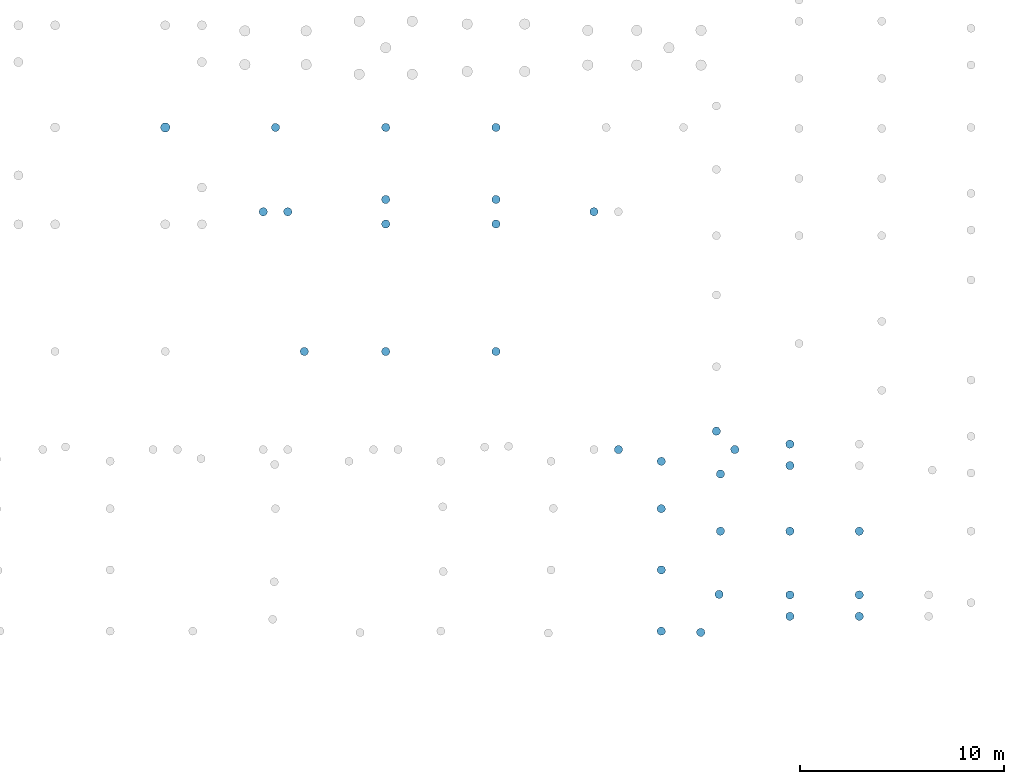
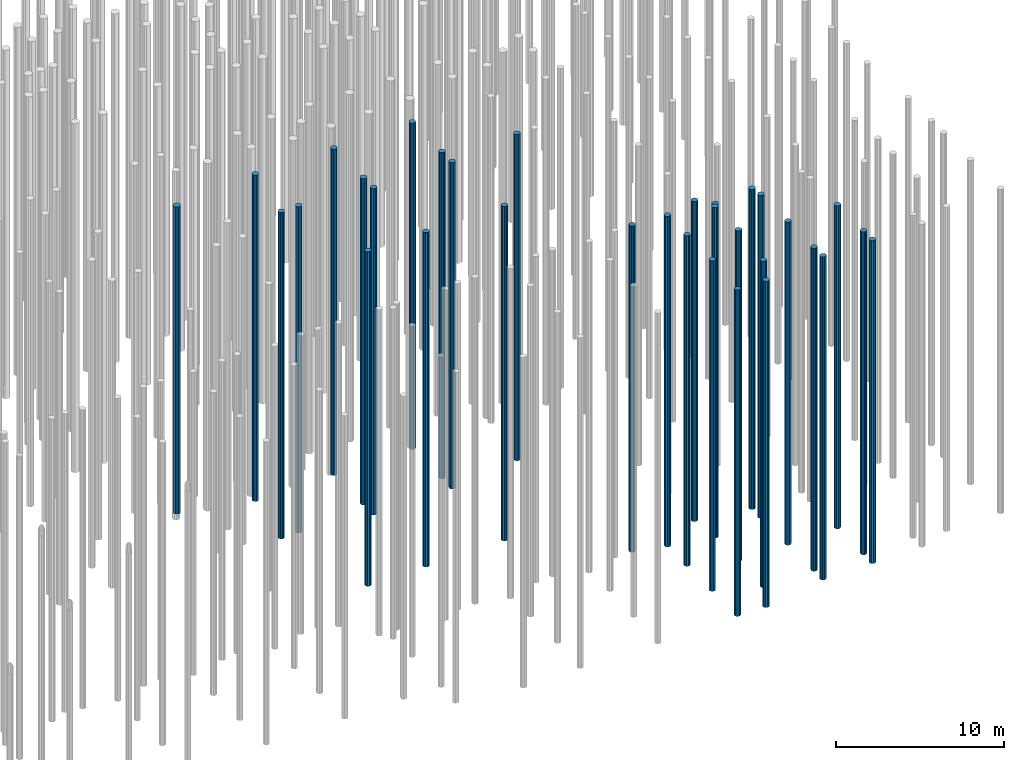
# One storey, part 12 of 20: 33 piles.
"""IFC2X3 building model written with IfcOpenShell, lengths in millimetres."""

from ifc_helpers import new_model, entity, si_unit, converted_unit, derived_unit, direction, frame, origin, place, context, subcontext, project, spatial, polyline, outline, extrude, material, element, save


model = new_model("IFC2X3")

# Units and contexts
model_context = context("Model", 3, precision=0.01, world=origin(), true_north=direction((6.12303176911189e-17, 1.0)))
body_context = subcontext(model_context, "Body", "Model", "MODEL_VIEW")
ifc_project = project(units=[si_unit("LENGTHUNIT", "METRE", prefix="MILLI"), si_unit("AREAUNIT", "SQUARE_METRE"), si_unit("VOLUMEUNIT", "CUBIC_METRE"), converted_unit("PLANEANGLEUNIT", "DEGREE", entity("IfcRatioMeasure", 0.0174532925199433), si_unit("PLANEANGLEUNIT", "RADIAN"), dimensions=[0, 0, 0, 0, 0, 0, 0]), si_unit("MASSUNIT", "GRAM", prefix="KILO"), derived_unit("MASSDENSITYUNIT", [(si_unit("MASSUNIT", "GRAM", prefix="KILO"), 1), (si_unit("LENGTHUNIT", "METRE"), -3)]), si_unit("TIMEUNIT", "SECOND"), si_unit("FREQUENCYUNIT", "HERTZ"), si_unit("THERMODYNAMICTEMPERATUREUNIT", "DEGREE_CELSIUS"), derived_unit("THERMALTRANSMITTANCEUNIT", [(si_unit("MASSUNIT", "GRAM", prefix="KILO"), 1), (si_unit("THERMODYNAMICTEMPERATUREUNIT", "KELVIN"), -1), (si_unit("TIMEUNIT", "SECOND"), -3)]), derived_unit("VOLUMETRICFLOWRATEUNIT", [(si_unit("LENGTHUNIT", "METRE"), 3), (si_unit("TIMEUNIT", "SECOND"), -1)]), si_unit("ELECTRICCURRENTUNIT", "AMPERE"), si_unit("ELECTRICVOLTAGEUNIT", "VOLT"), si_unit("POWERUNIT", "WATT"), si_unit("FORCEUNIT", "NEWTON", prefix="KILO"), si_unit("ILLUMINANCEUNIT", "LUX"), si_unit("LUMINOUSFLUXUNIT", "LUMEN"), si_unit("LUMINOUSINTENSITYUNIT", "CANDELA"), derived_unit("USERDEFINED", [(si_unit("MASSUNIT", "GRAM", prefix="KILO"), -1), (si_unit("LENGTHUNIT", "METRE"), -2), (si_unit("TIMEUNIT", "SECOND"), 3), (si_unit("LUMINOUSFLUXUNIT", "LUMEN"), 1)]), derived_unit("LINEARVELOCITYUNIT", [(si_unit("LENGTHUNIT", "METRE"), 1), (si_unit("TIMEUNIT", "SECOND"), -1)]), si_unit("PRESSUREUNIT", "PASCAL"), derived_unit("USERDEFINED", [(si_unit("LENGTHUNIT", "METRE"), -2), (si_unit("MASSUNIT", "GRAM", prefix="KILO"), 1), (si_unit("TIMEUNIT", "SECOND"), -2)])], contexts=[model_context])

# Site, building, storey
site_placement = place(None, origin())
site = spatial("IfcSite", under=ifc_project, at=site_placement, Name="Default", CompositionType="ELEMENT")
building_placement = place(site_placement, origin())
building = spatial("IfcBuilding", under=site, at=building_placement, Name="niet gebruiken", CompositionType="ELEMENT")
storey_placement = place(building_placement, frame((0.0, 0.0, -4000.0)))
storey = spatial("IfcBuildingStorey", under=building, at=storey_placement, Name="Level t.b.v. palenplan", CompositionType="ELEMENT", Elevation=-4000.0)

# Piles
ifc_material = material(Name="NLRS_f2_beton ihwg")
pile_1_placement = place(storey_placement, origin())
element("IfcPile", 1, at=pile_1_placement, inside=storey, material=ifc_material, Name="NLRS_17.12_SFO_TLB_funderingspaal grondverdringend_gen:Fundex_r410/500", ObjectType="NLRS_17.12_SFO_TLB_funderingspaal grondverdringend_gen:Fundex_r410/500", context=body_context, shape_type="SweptSolid", body=[
    extrude(outline(polyline([(-49.0597111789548, -199.043072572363), (49.0597111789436, -199.043072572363), (135.94014493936, -153.444703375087), (191.678329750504, -72.6940018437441), (203.505319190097, 24.710019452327), (168.711692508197, 116.453273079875), (95.2682502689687, 181.518485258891), (49.0597111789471, 199.043072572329), (-49.0597111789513, 199.043072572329), (-135.940144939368, 153.444703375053), (-191.678329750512, 72.6940018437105), (-203.505319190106, -24.7100194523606), (-168.711692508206, -116.453273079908), (-95.2682502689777, -181.518485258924), (-49.0597111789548, -199.043072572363)])), frame((99900.0, 300.0, -21100.0), z_axis=(0.0, 0.0, 1.0), x_axis=(0.239315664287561, -0.970941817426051, 0.0)), (0.0, 0.0, 1.0), 23720.0),
])
pile_2_placement = place(storey_placement, origin())
element("IfcPile", 2, at=pile_2_placement, inside=storey, material=ifc_material, Name="NLRS_17.12_SFO_TLB_funderingspaal grondverdringend_gen:Fundex_r410/500", ObjectType="NLRS_17.12_SFO_TLB_funderingspaal grondverdringend_gen:Fundex_r410/500", context=body_context, shape_type="SweptSolid", body=[
    extrude(outline(polyline([(-49.0597111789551, -199.043072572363), (49.0597111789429, -199.043072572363), (135.940144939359, -153.444703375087), (191.678329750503, -72.6940018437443), (203.505319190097, 24.7100194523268), (168.711692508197, 116.453273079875), (95.2682502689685, 181.51848525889), (49.0597111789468, 199.043072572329), (-49.0597111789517, 199.043072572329), (-135.940144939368, 153.444703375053), (-191.678329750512, 72.6940018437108), (-203.505319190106, -24.7100194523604), (-168.711692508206, -116.453273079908), (-95.2682502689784, -181.518485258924), (-49.0597111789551, -199.043072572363)])), frame((99900.0, 3300.0, -21100.0), z_axis=(0.0, 0.0, 1.0), x_axis=(0.239315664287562, -0.970941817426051, 0.0)), (0.0, 0.0, 1.0), 24028.0),
])
pile_3_placement = place(storey_placement, origin())
element("IfcPile", 3, at=pile_3_placement, inside=storey, material=ifc_material, Name="NLRS_17.12_SFO_TLB_funderingspaal grondverdringend_gen:Fundex_r410/500", ObjectType="NLRS_17.12_SFO_TLB_funderingspaal grondverdringend_gen:Fundex_r410/500", context=body_context, shape_type="SweptSolid", body=[
    extrude(outline(polyline([(-49.0597111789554, -199.043072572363), (49.0597111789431, -199.043072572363), (135.940144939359, -153.444703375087), (191.678329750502, -72.6940018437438), (203.505319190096, 24.7100194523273), (168.711692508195, 116.453273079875), (95.2682502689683, 181.518485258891), (49.0597111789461, 199.043072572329), (-49.0597111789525, 199.043072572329), (-135.940144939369, 153.444703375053), (-191.678329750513, 72.6940018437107), (-203.505319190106, -24.7100194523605), (-168.711692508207, -116.453273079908), (-95.2682502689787, -181.518485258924), (-49.0597111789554, -199.043072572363)])), frame((99900.0, 6300.0, -21100.0), z_axis=(0.0, 0.0, 1.0), x_axis=(0.239315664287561, -0.970941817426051, 0.0)), (0.0, 0.0, 1.0), 24028.0),
])
pile_4_placement = place(storey_placement, origin())
element("IfcPile", 4, at=pile_4_placement, inside=storey, material=ifc_material, Name="NLRS_17.12_SFO_TLB_funderingspaal grondverdringend_gen:Fundex_r410/500", ObjectType="NLRS_17.12_SFO_TLB_funderingspaal grondverdringend_gen:Fundex_r410/500", context=body_context, shape_type="SweptSolid", body=[
    extrude(outline(polyline([(-49.0597111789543, -199.043072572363), (49.0597111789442, -199.043072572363), (135.94014493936, -153.444703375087), (191.678329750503, -72.6940018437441), (203.505319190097, 24.7100194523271), (168.711692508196, 116.453273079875), (95.2682502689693, 181.51848525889), (49.0597111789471, 199.043072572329), (-49.0597111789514, 199.043072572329), (-135.940144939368, 153.444703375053), (-191.678329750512, 72.6940018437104), (-203.505319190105, -24.7100194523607), (-168.711692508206, -116.453273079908), (-95.2682502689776, -181.518485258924), (-49.0597111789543, -199.043072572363)])), frame((99900.0, 8621.0, -21100.0), z_axis=(0.0, 0.0, 1.0), x_axis=(0.239315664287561, -0.970941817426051, 0.0)), (0.0, 0.0, 1.0), 24028.0),
])
pile_5_placement = place(storey_placement, origin())
element("IfcPile", 5, at=pile_5_placement, inside=storey, material=ifc_material, Name="NLRS_17.12_SFO_TLB_funderingspaal grondverdringend_gen:Fundex_r410/500", ObjectType="NLRS_17.12_SFO_TLB_funderingspaal grondverdringend_gen:Fundex_r410/500", context=body_context, shape_type="SweptSolid", body=[
    extrude(outline(polyline([(-49.0597111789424, -199.04307257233), (49.0597111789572, -199.04307257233), (135.940144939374, -153.444703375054), (191.678329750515, -72.6940018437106), (203.505319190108, 24.7100194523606), (168.71169250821, 116.453273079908), (95.2682502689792, 181.518485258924), (49.0597111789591, 199.043072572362), (-49.0597111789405, 199.043072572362), (-135.940144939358, 153.444703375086), (-191.678329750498, 72.6940018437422), (-203.505319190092, -24.710019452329), (-168.711692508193, -116.453273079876), (-95.2682502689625, -181.518485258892), (-49.0597111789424, -199.04307257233)])), frame((81000.0, 24976.0, -21100.0), z_axis=(0.0, 0.0, 1.0), x_axis=(0.239315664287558, -0.970941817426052, 0.0)), (0.0, 0.0, 1.0), 23720.0),
])
pile_6_placement = place(storey_placement, origin())
element("IfcPile", 6, at=pile_6_placement, inside=storey, material=ifc_material, Name="NLRS_17.12_SFO_TLB_funderingspaal grondverdringend_gen:Fundex_r410/500", ObjectType="NLRS_17.12_SFO_TLB_funderingspaal grondverdringend_gen:Fundex_r410/500", context=body_context, shape_type="SweptSolid", body=[
    extrude(outline(polyline([(-49.0597111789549, -199.043072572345), (49.0597111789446, -199.043072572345), (135.940144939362, -153.444703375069), (191.678329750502, -72.6940018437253), (203.505319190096, 24.7100194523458), (168.711692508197, 116.453273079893), (95.2682502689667, 181.518485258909), (49.0597111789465, 199.043072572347), (-49.059711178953, 199.043072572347), (-135.94014493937, 153.444703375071), (-191.678329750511, 72.6940018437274), (-203.505319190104, -24.7100194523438), (-168.711692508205, -116.453273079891), (-95.2682502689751, -181.518485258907), (-49.0597111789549, -199.043072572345)])), frame((86400.0, 20246.0, -21100.0), z_axis=(0.0, 0.0, 1.0), x_axis=(0.239315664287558, -0.970941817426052, 0.0)), (0.0, 0.0, 1.0), 23720.0),
])
pile_7_placement = place(storey_placement, origin())
element("IfcPile", 7, at=pile_7_placement, inside=storey, material=ifc_material, Name="NLRS_17.12_SFO_TLB_funderingspaal grondverdringend_gen:Fundex_r410/500", ObjectType="NLRS_17.12_SFO_TLB_funderingspaal grondverdringend_gen:Fundex_r410/500", context=body_context, shape_type="SweptSolid", body=[
    extrude(outline(polyline([(-49.0597111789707, -199.043072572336), (49.0597111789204, -199.043072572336), (135.940144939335, -153.444703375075), (191.678329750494, -72.6940018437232), (203.505319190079, 24.7100194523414), (168.711692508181, 116.453273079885), (95.2682502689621, 181.518485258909), (49.059711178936, 199.043072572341), (-49.0597111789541, 199.043072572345), (-135.940144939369, 153.444703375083), (-191.678329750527, 72.6940018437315), (-203.505319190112, -24.7100194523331), (-168.711692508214, -116.453273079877), (-95.2682502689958, -181.518485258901), (-49.0597111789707, -199.043072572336)])), frame((86400.0, 21446.0, -21100.0), z_axis=(0.0, 0.0, 1.0), x_axis=(-0.970941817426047, -0.239315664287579, 0.0)), (0.0, 0.0, 1.0), 23720.0),
])
pile_8_placement = place(storey_placement, origin())
element("IfcPile", 8, at=pile_8_placement, inside=storey, material=ifc_material, Name="NLRS_17.12_SFO_TLB_funderingspaal grondverdringend_gen:Fundex_r410/500", ObjectType="NLRS_17.12_SFO_TLB_funderingspaal grondverdringend_gen:Fundex_r410/500", context=body_context, shape_type="SweptSolid", body=[
    extrude(outline(polyline([(-49.0597111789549, -199.043072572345), (49.0597111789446, -199.043072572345), (135.940144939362, -153.444703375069), (191.678329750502, -72.6940018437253), (203.505319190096, 24.7100194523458), (168.711692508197, 116.453273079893), (95.2682502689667, 181.518485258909), (49.0597111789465, 199.043072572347), (-49.059711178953, 199.043072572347), (-135.94014493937, 153.444703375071), (-191.678329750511, 72.6940018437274), (-203.505319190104, -24.7100194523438), (-168.711692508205, -116.453273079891), (-95.2682502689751, -181.518485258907), (-49.0597111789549, -199.043072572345)])), frame((86400.0, 24976.0, -21100.0), z_axis=(0.0, 0.0, 1.0), x_axis=(0.239315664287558, -0.970941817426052, 0.0)), (0.0, 0.0, 1.0), 23720.0),
])
pile_9_placement = place(storey_placement, origin())
element("IfcPile", 9, at=pile_9_placement, inside=storey, material=ifc_material, Name="NLRS_17.12_SFO_TLB_funderingspaal grondverdringend_gen:Fundex_r410/500", ObjectType="NLRS_17.12_SFO_TLB_funderingspaal grondverdringend_gen:Fundex_r410/500", context=body_context, shape_type="SweptSolid", body=[
    extrude(outline(polyline([(-49.0597111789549, -199.043072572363), (49.0597111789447, -199.043072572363), (135.940144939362, -153.444703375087), (191.678329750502, -72.6940018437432), (203.505319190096, 24.710019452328), (168.711692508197, 116.453273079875), (95.2682502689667, 181.518485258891), (49.0597111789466, 199.043072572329), (-49.059711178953, 199.043072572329), (-135.94014493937, 153.444703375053), (-191.678329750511, 72.6940018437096), (-203.505319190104, -24.7100194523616), (-168.711692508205, -116.453273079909), (-95.268250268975, -181.518485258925), (-49.0597111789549, -199.043072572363)])), frame((91800.0, 20246.0, -21100.0), z_axis=(0.0, 0.0, 1.0), x_axis=(0.239315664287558, -0.970941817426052, 0.0)), (0.0, 0.0, 1.0), 23720.0),
])
pile_10_placement = place(storey_placement, origin())
element("IfcPile", 10, at=pile_10_placement, inside=storey, material=ifc_material, Name="NLRS_17.12_SFO_TLB_funderingspaal grondverdringend_gen:Fundex_r410/500", ObjectType="NLRS_17.12_SFO_TLB_funderingspaal grondverdringend_gen:Fundex_r410/500", context=body_context, shape_type="SweptSolid", body=[
    extrude(outline(polyline([(-49.0597111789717, -199.043072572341), (49.0597111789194, -199.043072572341), (135.940144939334, -153.444703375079), (191.678329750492, -72.6940018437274), (203.505319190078, 24.7100194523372), (168.71169250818, 116.453273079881), (95.2682502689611, 181.518485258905), (49.059711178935, 199.043072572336), (-49.0597111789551, 199.043072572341), (-135.94014493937, 153.444703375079), (-191.678329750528, 72.6940018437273), (-203.505319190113, -24.7100194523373), (-168.711692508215, -116.453273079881), (-95.2682502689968, -181.518485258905), (-49.0597111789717, -199.043072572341)])), frame((91800.0, 21446.0, -21100.0), z_axis=(0.0, 0.0, 1.0), x_axis=(-0.970941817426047, -0.239315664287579, 0.0)), (0.0, 0.0, 1.0), 23720.0),
])
pile_11_placement = place(storey_placement, origin())
element("IfcPile", 11, at=pile_11_placement, inside=storey, material=ifc_material, Name="NLRS_17.12_SFO_TLB_funderingspaal grondverdringend_gen:Fundex_r410/500", ObjectType="NLRS_17.12_SFO_TLB_funderingspaal grondverdringend_gen:Fundex_r410/500", context=body_context, shape_type="SweptSolid", body=[
    extrude(outline(polyline([(-49.0597111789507, -199.043072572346), (49.0597111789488, -199.043072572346), (135.940144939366, -153.44470337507), (191.678329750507, -72.6940018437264), (203.5053191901, 24.7100194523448), (168.711692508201, 116.453273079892), (95.2682502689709, 181.518485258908), (49.0597111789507, 199.043072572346), (-49.0597111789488, 199.043072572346), (-135.940144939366, 153.44470337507), (-191.678329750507, 72.6940018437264), (-203.5053191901, -24.7100194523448), (-168.711692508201, -116.453273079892), (-95.2682502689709, -181.518485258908), (-49.0597111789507, -199.043072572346)])), frame((91800.0, 24976.0, -21100.0), z_axis=(0.0, 0.0, 1.0), x_axis=(0.239315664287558, -0.970941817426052, 0.0)), (0.0, 0.0, 1.0), 23720.0),
])
pile_12_placement = place(storey_placement, origin())
element("IfcPile", 12, at=pile_12_placement, inside=storey, material=ifc_material, Name="NLRS_17.12_SFO_TLB_funderingspaal grondverdringend_gen:Fundex_r410/500", ObjectType="NLRS_17.12_SFO_TLB_funderingspaal grondverdringend_gen:Fundex_r410/500", context=body_context, shape_type="SweptSolid", body=[
    extrude(outline(polyline([(-49.0597111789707, -199.043072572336), (49.0597111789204, -199.043072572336), (135.940144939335, -153.444703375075), (191.678329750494, -72.6940018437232), (203.505319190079, 24.7100194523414), (168.711692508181, 116.453273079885), (95.2682502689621, 181.518485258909), (49.059711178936, 199.043072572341), (-49.0597111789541, 199.043072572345), (-135.940144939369, 153.444703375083), (-191.678329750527, 72.6940018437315), (-203.505319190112, -24.7100194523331), (-168.711692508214, -116.453273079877), (-95.2682502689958, -181.518485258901), (-49.0597111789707, -199.043072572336)])), frame((80400.0, 20846.0, -21100.0), z_axis=(0.0, 0.0, 1.0), x_axis=(-0.970941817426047, -0.239315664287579, 0.0)), (0.0, 0.0, 1.0), 23720.0),
])
pile_13_placement = place(storey_placement, origin())
element("IfcPile", 13, at=pile_13_placement, inside=storey, material=ifc_material, Name="NLRS_17.12_SFO_TLB_funderingspaal grondverdringend_gen:Fundex_r410/500", ObjectType="NLRS_17.12_SFO_TLB_funderingspaal grondverdringend_gen:Fundex_r410/500", context=body_context, shape_type="SweptSolid", body=[
    extrude(outline(polyline([(-49.0597111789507, -199.043072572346), (49.0597111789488, -199.043072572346), (135.940144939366, -153.44470337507), (191.678329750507, -72.6940018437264), (203.5053191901, 24.7100194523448), (168.711692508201, 116.453273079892), (95.2682502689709, 181.518485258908), (49.0597111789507, 199.043072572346), (-49.0597111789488, 199.043072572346), (-135.940144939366, 153.44470337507), (-191.678329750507, 72.6940018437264), (-203.5053191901, -24.7100194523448), (-168.711692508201, -116.453273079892), (-95.2682502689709, -181.518485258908), (-49.0597111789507, -199.043072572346)])), frame((81600.0, 20846.0, -21100.0), z_axis=(0.0, 0.0, 1.0), x_axis=(0.239315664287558, -0.970941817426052, 0.0)), (0.0, 0.0, 1.0), 23720.0),
])
pile_14_placement = place(storey_placement, origin())
element("IfcPile", 14, at=pile_14_placement, inside=storey, material=ifc_material, Name="NLRS_17.12_SFO_TLB_funderingspaal grondverdringend_gen:Fundex_r410/500", ObjectType="NLRS_17.12_SFO_TLB_funderingspaal grondverdringend_gen:Fundex_r410/500", context=body_context, shape_type="SweptSolid", body=[
    extrude(outline(polyline([(-49.0597111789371, -199.043072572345), (49.0597111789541, -199.043072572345), (135.940144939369, -153.444703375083), (191.678329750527, -72.6940018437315), (203.505319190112, 24.7100194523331), (168.711692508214, 116.453273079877), (95.2682502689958, 181.518485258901), (49.0597111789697, 199.043072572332), (-49.0597111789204, 199.043072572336), (-135.940144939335, 153.444703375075), (-191.678329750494, 72.6940018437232), (-203.505319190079, -24.7100194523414), (-168.711692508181, -116.453273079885), (-95.2682502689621, -181.518485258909), (-49.0597111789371, -199.043072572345)])), frame((96600.0, 20846.0, -21100.0), z_axis=(0.0, 0.0, 1.0), x_axis=(-0.970941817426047, -0.239315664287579, 0.0)), (0.0, 0.0, 1.0), 23720.0),
])
pile_15_placement = place(storey_placement, origin())
element("IfcPile", 15, at=pile_15_placement, inside=storey, material=ifc_material, Name="NLRS_17.12_SFO_TLB_funderingspaal grondverdringend_gen:Fundex_r410/500", ObjectType="NLRS_17.12_SFO_TLB_funderingspaal grondverdringend_gen:Fundex_r410/500", context=body_context, shape_type="SweptSolid", body=[
    extrude(outline(polyline([(-49.0597111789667, -199.043072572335), (49.0597111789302, -199.043072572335), (135.940144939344, -153.444703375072), (191.678329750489, -72.6940018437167), (203.505319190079, 24.710019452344), (168.711692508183, 116.453273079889), (95.2682502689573, 181.518485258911), (49.0597111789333, 199.043072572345), (-49.0597111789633, 199.043072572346), (-135.940144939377, 153.444703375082), (-191.678329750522, 72.6940018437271), (-203.505319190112, -24.7100194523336), (-168.711692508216, -116.453273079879), (-95.2682502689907, -181.518485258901), (-49.0597111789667, -199.043072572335)])), frame((97800.0, 9196.0, -21100.0), z_axis=(0.0, 0.0, 1.0), x_axis=(-0.970941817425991, -0.239315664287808, 0.0)), (0.0, 0.0, 1.0), 23720.0),
])
pile_16_placement = place(storey_placement, origin())
element("IfcPile", 16, at=pile_16_placement, inside=storey, material=ifc_material, Name="NLRS_17.12_SFO_TLB_funderingspaal grondverdringend_gen:Fundex_r410/500", ObjectType="NLRS_17.12_SFO_TLB_funderingspaal grondverdringend_gen:Fundex_r410/500", context=body_context, shape_type="SweptSolid", body=[
    extrude(outline(polyline([(-49.059711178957, -199.043072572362), (49.0597111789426, -199.043072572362), (135.940144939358, -153.444703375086), (191.678329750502, -72.6940018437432), (203.505319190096, 24.710019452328), (168.711692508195, 116.453273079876), (95.2682502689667, 181.518485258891), (49.0597111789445, 199.04307257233), (-49.059711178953, 199.043072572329), (-135.94014493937, 153.444703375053), (-191.678329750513, 72.6940018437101), (-203.505319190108, -24.7100194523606), (-168.711692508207, -116.453273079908), (-95.2682502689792, -181.518485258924), (-49.059711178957, -199.043072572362)])), frame((91800.0, 14001.0, -21100.0), z_axis=(0.0, 0.0, 1.0), x_axis=(0.239315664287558, -0.970941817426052, 0.0)), (0.0, 0.0, 1.0), 24320.0),
])
pile_17_placement = place(storey_placement, origin())
element("IfcPile", 17, at=pile_17_placement, inside=storey, material=ifc_material, Name="NLRS_17.12_SFO_TLB_funderingspaal grondverdringend_gen:Fundex_r410/500", ObjectType="NLRS_17.12_SFO_TLB_funderingspaal grondverdringend_gen:Fundex_r410/500", context=body_context, shape_type="SweptSolid", body=[
    extrude(outline(polyline([(-49.0597111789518, -199.043072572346), (49.0597111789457, -199.043072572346), (135.940144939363, -153.44470337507), (191.678329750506, -72.6940018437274), (203.5053191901, 24.7100194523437), (168.711692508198, 116.453273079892), (95.2682502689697, 181.518485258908), (49.0597111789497, 199.043072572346), (-49.0597111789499, 199.043072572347), (-135.940144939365, 153.444703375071), (-191.67832975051, 72.6940018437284), (-203.505319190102, -24.7100194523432), (-168.711692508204, -116.453273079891), (-95.2682502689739, -181.518485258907), (-49.0597111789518, -199.043072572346)])), frame((82410.0, 14001.0, -21100.0), z_axis=(0.0, 0.0, 1.0), x_axis=(0.239315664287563, -0.970941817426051, 0.0)), (0.0, 0.0, 1.0), 24320.0),
])
pile_18_placement = place(storey_placement, origin())
element("IfcPile", 18, at=pile_18_placement, inside=storey, material=ifc_material, Name="NLRS_17.12_SFO_TLB_funderingspaal grondverdringend_gen:Fundex_r410/500", ObjectType="NLRS_17.12_SFO_TLB_funderingspaal grondverdringend_gen:Fundex_r410/500", context=body_context, shape_type="SweptSolid", body=[
    extrude(outline(polyline([(-49.0597111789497, -199.043072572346), (49.0597111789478, -199.043072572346), (135.940144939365, -153.444703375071), (191.678329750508, -72.6940018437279), (203.505319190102, 24.7100194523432), (168.7116925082, 116.453273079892), (95.2682502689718, 181.518485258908), (49.0597111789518, 199.043072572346), (-49.0597111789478, 199.043072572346), (-135.940144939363, 153.44470337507), (-191.678329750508, 72.6940018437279), (-203.5053191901, -24.7100194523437), (-168.711692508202, -116.453273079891), (-95.2682502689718, -181.518485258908), (-49.0597111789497, -199.043072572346)])), frame((86400.0, 14001.0, -21100.0), z_axis=(0.0, 0.0, 1.0), x_axis=(0.239315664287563, -0.970941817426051, 0.0)), (0.0, 0.0, 1.0), 24320.0),
])
pile_19_placement = place(storey_placement, origin())
element("IfcPile", 19, at=pile_19_placement, inside=storey, material=ifc_material, Name="NLRS_17.12_SFO_TLB_funderingspaal grondverdringend_gen:Fundex_r410/500", ObjectType="NLRS_17.12_SFO_TLB_funderingspaal grondverdringend_gen:Fundex_r410/500", context=body_context, shape_type="SweptSolid", body=[
    extrude(outline(polyline([(-49.0597111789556, -199.043072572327), (49.0597111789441, -199.043072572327), (135.94014493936, -153.444703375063), (191.678329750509, -72.6940018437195), (203.505319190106, 24.7100194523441), (168.711692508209, 116.453273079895), (95.2682502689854, 181.518485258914), (49.059711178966, 199.04307257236), (-49.0597111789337, 199.04307257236), (-135.940144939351, 153.444703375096), (-191.678329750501, 72.6940018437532), (-203.505319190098, -24.7100194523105), (-168.711692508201, -116.453273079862), (-95.2682502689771, -181.518485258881), (-49.0597111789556, -199.043072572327)])), frame((102600.0, 10096.0, -21100.0), z_axis=(0.0, 0.0, 1.0), x_axis=(0.239315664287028, -0.970941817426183, 0.0)), (0.0, 0.0, 1.0), 23270.0),
])
pile_20_placement = place(storey_placement, origin())
element("IfcPile", 20, at=pile_20_placement, inside=storey, material=ifc_material, Name="NLRS_17.12_SFO_TLB_funderingspaal grondverdringend_gen:Fundex_r410/500", ObjectType="NLRS_17.12_SFO_TLB_funderingspaal grondverdringend_gen:Fundex_r410/500", context=body_context, shape_type="SweptSolid", body=[
    extrude(outline(polyline([(-49.0597111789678, -199.043072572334), (49.0597111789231, -199.043072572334), (135.940144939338, -153.444703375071), (191.678329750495, -72.6940018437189), (203.505319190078, 24.7100194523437), (168.71169250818, 116.453273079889), (95.2682502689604, 181.518485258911), (49.0597111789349, 199.043072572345), (-49.0597111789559, 199.043072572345), (-135.940144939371, 153.444703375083), (-191.678329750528, 72.6940018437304), (-203.505319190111, -24.7100194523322), (-168.711692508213, -116.453273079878), (-95.268250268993, -181.518485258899), (-49.0597111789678, -199.043072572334)])), frame((103500.0, 9196.0, -21100.0), z_axis=(0.0, 0.0, 1.0), x_axis=(-0.970941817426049, -0.239315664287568, 0.0)), (0.0, 0.0, 1.0), 23270.0),
])
pile_21_placement = place(storey_placement, origin())
element("IfcPile", 21, at=pile_21_placement, inside=storey, material=ifc_material, Name="NLRS_17.12_SFO_TLB_funderingspaal grondverdringend_gen:Fundex_r410/500", ObjectType="NLRS_17.12_SFO_TLB_funderingspaal grondverdringend_gen:Fundex_r410/500", context=body_context, shape_type="SweptSolid", body=[
    extrude(outline(polyline([(-49.0597111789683, -199.043072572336), (49.0597111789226, -199.043072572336), (135.940144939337, -153.444703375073), (191.678329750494, -72.694001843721), (203.505319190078, 24.7100194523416), (168.711692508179, 116.453273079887), (95.2682502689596, 181.518485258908), (49.0597111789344, 199.043072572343), (-49.0597111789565, 199.043072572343), (-135.940144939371, 153.444703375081), (-191.678329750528, 72.6940018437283), (-203.505319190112, -24.7100194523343), (-168.711692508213, -116.45327307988), (-95.2682502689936, -181.518485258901), (-49.0597111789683, -199.043072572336)])), frame((106200.000370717, 9461.0, -21100.0), z_axis=(0.0, 0.0, 1.0), x_axis=(-0.970941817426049, -0.239315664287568, 0.0)), (0.0, 0.0, 1.0), 23270.0),
])
pile_22_placement = place(storey_placement, origin())
element("IfcPile", 22, at=pile_22_placement, inside=storey, material=ifc_material, Name="NLRS_17.12_SFO_TLB_funderingspaal grondverdringend_gen:Fundex_r410/500", ObjectType="NLRS_17.12_SFO_TLB_funderingspaal grondverdringend_gen:Fundex_r410/500", context=body_context, shape_type="SweptSolid", body=[
    extrude(outline(polyline([(-49.0597111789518, -199.043072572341), (49.0597111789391, -199.043072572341), (135.940144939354, -153.444703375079), (191.678329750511, -72.6940018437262), (203.505319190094, 24.7100194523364), (168.711692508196, 116.453273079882), (95.2682502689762, 181.518485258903), (49.059711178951, 199.043072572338), (-49.0597111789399, 199.043072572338), (-135.940144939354, 153.444703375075), (-191.678329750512, 72.6940018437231), (-203.505319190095, -24.7100194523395), (-168.711692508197, -116.453273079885), (-95.268250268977, -181.518485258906), (-49.0597111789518, -199.043072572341)])), frame((106200.000370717, 8411.0, -21100.0), z_axis=(0.0, 0.0, 1.0), x_axis=(-0.970941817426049, -0.239315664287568, 0.0)), (0.0, 0.0, 1.0), 23470.0),
])
pile_23_placement = place(storey_placement, origin())
element("IfcPile", 23, at=pile_23_placement, inside=storey, material=ifc_material, Name="NLRS_17.12_SFO_TLB_funderingspaal grondverdringend_gen:Fundex_r410/500", ObjectType="NLRS_17.12_SFO_TLB_funderingspaal grondverdringend_gen:Fundex_r410/500", context=body_context, shape_type="SweptSolid", body=[
    extrude(outline(polyline([(-49.0597111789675, -199.043072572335), (49.0597111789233, -199.043072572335), (135.940144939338, -153.444703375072), (191.678329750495, -72.6940018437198), (203.505319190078, 24.7100194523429), (168.711692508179, 116.453273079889), (95.2682502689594, 181.518485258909), (49.059711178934, 199.043072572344), (-49.0597111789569, 199.043072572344), (-135.940144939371, 153.444703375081), (-191.678329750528, 72.6940018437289), (-203.505319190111, -24.710019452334), (-168.711692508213, -116.45327307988), (-95.268250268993, -181.518485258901), (-49.0597111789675, -199.043072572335)])), frame((106200.000370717, 2075.0, -21100.0), z_axis=(0.0, 0.0, 1.0), x_axis=(-0.97094181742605, -0.239315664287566, 0.0)), (0.0, 0.0, 1.0), 23470.0),
])
pile_24_placement = place(storey_placement, origin())
element("IfcPile", 24, at=pile_24_placement, inside=storey, material=ifc_material, Name="NLRS_17.12_SFO_TLB_funderingspaal grondverdringend_gen:Fundex_r410/500", ObjectType="NLRS_17.12_SFO_TLB_funderingspaal grondverdringend_gen:Fundex_r410/500", context=body_context, shape_type="SweptSolid", body=[
    extrude(outline(polyline([(-49.0597111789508, -199.04307257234), (49.05971117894, -199.04307257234), (135.940144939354, -153.444703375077), (191.678329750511, -72.6940018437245), (203.505319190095, 24.7100194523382), (168.711692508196, 116.453273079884), (95.2682502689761, 181.518485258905), (49.0597111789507, 199.043072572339), (-49.0597111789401, 199.043072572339), (-135.940144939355, 153.444703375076), (-191.678329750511, 72.6940018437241), (-203.505319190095, -24.7100194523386), (-168.711692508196, -116.453273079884), (-95.2682502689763, -181.518485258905), (-49.0597111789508, -199.04307257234)])), frame((106200.000370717, 1025.0, -21100.0), z_axis=(0.0, 0.0, 1.0), x_axis=(-0.97094181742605, -0.239315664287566, 0.0)), (0.0, 0.0, 1.0), 23470.0),
])
pile_25_placement = place(storey_placement, origin())
element("IfcPile", 25, at=pile_25_placement, inside=storey, material=ifc_material, Name="NLRS_17.12_SFO_TLB_funderingspaal grondverdringend_gen:Fundex_r410/500", ObjectType="NLRS_17.12_SFO_TLB_funderingspaal grondverdringend_gen:Fundex_r410/500", context=body_context, shape_type="SweptSolid", body=[
    extrude(outline(polyline([(-49.0597111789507, -199.043072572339), (49.0597111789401, -199.043072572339), (135.940144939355, -153.444703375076), (191.678329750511, -72.6940018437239), (203.505319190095, 24.7100194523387), (168.711692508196, 116.453273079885), (95.2682502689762, 181.518485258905), (49.0597111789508, 199.043072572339), (-49.05971117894, 199.043072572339), (-135.940144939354, 153.444703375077), (-191.678329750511, 72.6940018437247), (-203.505319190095, -24.7100194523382), (-168.711692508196, -116.453273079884), (-95.2682502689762, -181.518485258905), (-49.0597111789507, -199.043072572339)])), frame((109600.000370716, 2075.0, -21100.0), z_axis=(0.0, 0.0, 1.0), x_axis=(-0.97094181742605, -0.239315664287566, 0.0)), (0.0, 0.0, 1.0), 23470.0),
])
pile_26_placement = place(storey_placement, origin())
element("IfcPile", 26, at=pile_26_placement, inside=storey, material=ifc_material, Name="NLRS_17.12_SFO_TLB_funderingspaal grondverdringend_gen:Fundex_r410/500", ObjectType="NLRS_17.12_SFO_TLB_funderingspaal grondverdringend_gen:Fundex_r410/500", context=body_context, shape_type="SweptSolid", body=[
    extrude(outline(polyline([(-49.0597111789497, -199.04307257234), (49.059711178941, -199.04307257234), (135.940144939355, -153.444703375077), (191.678329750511, -72.6940018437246), (203.505319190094, 24.7100194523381), (168.711692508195, 116.453273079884), (95.2682502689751, 181.518485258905), (49.0597111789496, 199.043072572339), (-49.059711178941, 199.04307257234), (-135.940144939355, 153.444703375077), (-191.678329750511, 72.6940018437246), (-203.505319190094, -24.7100194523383), (-168.711692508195, -116.453273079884), (-95.2682502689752, -181.518485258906), (-49.0597111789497, -199.04307257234)])), frame((109600.000370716, 1025.0, -21100.0), z_axis=(0.0, 0.0, 1.0), x_axis=(-0.970941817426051, -0.239315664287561, 0.0)), (0.0, 0.0, 1.0), 23470.0),
])
pile_27_placement = place(storey_placement, origin())
element("IfcPile", 27, at=pile_27_placement, inside=storey, material=ifc_material, Name="NLRS_17.12_SFO_TLB_funderingspaal grondverdringend_gen:Fundex_r460/560", ObjectType="NLRS_17.12_SFO_TLB_funderingspaal grondverdringend_gen:Fundex_r460/560", context=body_context, shape_type="SweptSolid", body=[
    extrude(outline(polyline([(-25.751829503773, -228.553808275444), (25.7518295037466, -228.553808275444), (122.367377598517, -194.746565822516), (194.746565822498, -122.367377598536), (228.553808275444, -25.751829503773), (217.093165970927, 75.9641842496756), (162.634559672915, 162.634559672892), (75.9641842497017, 217.093165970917), (25.751829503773, 228.553808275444), (-25.7518295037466, 228.553808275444), (-122.367377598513, 194.746565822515), (-194.746565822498, 122.367377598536), (-228.553808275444, 25.751829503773), (-217.093165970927, -75.9641842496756), (-162.634559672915, -162.634559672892), (-75.9641842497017, -217.093165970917), (-25.751829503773, -228.553808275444)])), frame((75600.0, 24976.0, -20100.0), z_axis=(0.0, 0.0, 1.0), x_axis=(0.111964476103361, -0.993712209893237, 0.0)), (0.0, 0.0, 1.0), 22320.0),
])
pile_28_placement = place(storey_placement, origin())
element("IfcPile", 28, at=pile_28_placement, inside=storey, material=ifc_material, Name="NLRS_17.12_SFO_TLB_funderingspaal grondverdringend_gen:Fundex_r410/500", ObjectType="NLRS_17.12_SFO_TLB_funderingspaal grondverdringend_gen:Fundex_r410/500", context=body_context, shape_type="SweptSolid", body=[
    extrude(outline(polyline([(-49.0597111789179, -199.043072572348), (49.059711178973, -199.043072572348), (135.940144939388, -153.444703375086), (191.678329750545, -72.6940018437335), (203.505319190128, 24.7100194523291), (168.71169250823, 116.453273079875), (95.2682502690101, 181.518485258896), (49.0597111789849, 199.043072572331), (-49.059711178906, 199.043072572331), (-135.940144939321, 153.444703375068), (-191.678329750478, 72.6940018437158), (-203.505319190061, -24.7100194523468), (-168.711692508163, -116.453273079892), (-95.2682502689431, -181.518485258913), (-49.0597111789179, -199.043072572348)])), frame((109600.0, 5196.0, -21100.0), z_axis=(0.0, 0.0, 1.0), x_axis=(-0.970941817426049, -0.239315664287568, 0.0)), (0.0, 0.0, 1.0), 23470.0),
])
pile_29_placement = place(storey_placement, origin())
element("IfcPile", 29, at=pile_29_placement, inside=storey, material=ifc_material, Name="NLRS_17.12_SFO_TLB_funderingspaal grondverdringend_gen:Fundex_r410/500", ObjectType="NLRS_17.12_SFO_TLB_funderingspaal grondverdringend_gen:Fundex_r410/500", context=body_context, shape_type="SweptSolid", body=[
    extrude(outline(polyline([(-49.0597111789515, -199.04307257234), (49.0597111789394, -199.04307257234), (135.940144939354, -153.444703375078), (191.678329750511, -72.6940018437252), (203.505319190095, 24.7100194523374), (168.711692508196, 116.453273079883), (95.2682502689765, 181.518485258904), (49.0597111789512, 199.043072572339), (-49.0597111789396, 199.043072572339), (-135.940144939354, 153.444703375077), (-191.678329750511, 72.6940018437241), (-203.505319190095, -24.7100194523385), (-168.711692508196, -116.453273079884), (-95.2682502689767, -181.518485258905), (-49.0597111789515, -199.04307257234)])), frame((106200.000370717, 5196.0, -21100.0), z_axis=(0.0, 0.0, 1.0), x_axis=(-0.970941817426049, -0.239315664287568, 0.0)), (0.0, 0.0, 1.0), 23470.0),
])
pile_30_placement = place(storey_placement, origin())
element("IfcPile", 30, at=pile_30_placement, inside=storey, material=ifc_material, Name="NLRS_17.12_SFO_TLB_funderingspaal grondverdringend_gen:Fundex_r410/500", ObjectType="NLRS_17.12_SFO_TLB_funderingspaal grondverdringend_gen:Fundex_r410/500", context=body_context, shape_type="SweptSolid", body=[
    extrude(outline(polyline([(-49.0597111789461, -199.043072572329), (49.0597111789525, -199.043072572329), (135.940144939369, -153.444703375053), (191.678329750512, -72.6940018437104), (203.505319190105, 24.7100194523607), (168.711692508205, 116.453273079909), (95.2682502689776, 181.518485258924), (49.0597111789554, 199.043072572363), (-49.0597111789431, 199.043072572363), (-135.940144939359, 153.444703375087), (-191.678329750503, 72.6940018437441), (-203.505319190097, -24.7100194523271), (-168.711692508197, -116.453273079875), (-95.2682502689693, -181.51848525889), (-49.0597111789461, -199.043072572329)])), frame((102800.0, 8000.0, -21100.0), z_axis=(0.0, 0.0, 1.0), x_axis=(0.239315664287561, -0.970941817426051, 0.0)), (0.0, 0.0, 1.0), 24028.0),
])
pile_31_placement = place(storey_placement, origin())
element("IfcPile", 31, at=pile_31_placement, inside=storey, material=ifc_material, Name="NLRS_17.12_SFO_TLB_funderingspaal grondverdringend_gen:Fundex_r410/500", ObjectType="NLRS_17.12_SFO_TLB_funderingspaal grondverdringend_gen:Fundex_r410/500", context=body_context, shape_type="SweptSolid", body=[
    extrude(outline(polyline([(-49.059711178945, -199.043072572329), (49.0597111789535, -199.043072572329), (135.94014493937, -153.444703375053), (191.678329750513, -72.6940018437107), (203.505319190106, 24.7100194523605), (168.711692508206, 116.453273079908), (95.2682502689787, 181.518485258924), (49.0597111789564, 199.043072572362), (-49.0597111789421, 199.043072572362), (-135.940144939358, 153.444703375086), (-191.678329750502, 72.6940018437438), (-203.505319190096, -24.7100194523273), (-168.711692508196, -116.453273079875), (-95.2682502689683, -181.518485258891), (-49.059711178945, -199.043072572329)])), frame((102800.0, 5196.0, -21100.0), z_axis=(0.0, 0.0, 1.0), x_axis=(0.239315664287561, -0.970941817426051, 0.0)), (0.0, 0.0, 1.0), 24028.0),
])
pile_32_placement = place(storey_placement, origin())
element("IfcPile", 32, at=pile_32_placement, inside=storey, material=ifc_material, Name="NLRS_17.12_SFO_TLB_funderingspaal grondverdringend_gen:Fundex_r410/500", ObjectType="NLRS_17.12_SFO_TLB_funderingspaal grondverdringend_gen:Fundex_r410/500", context=body_context, shape_type="SweptSolid", body=[
    extrude(outline(polyline([(-49.0597111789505, -199.043072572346), (49.059711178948, -199.043072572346), (135.940144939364, -153.44470337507), (191.678329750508, -72.6940018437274), (203.505319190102, 24.7100194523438), (168.711692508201, 116.453273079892), (95.2682502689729, 181.518485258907), (49.0597111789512, 199.043072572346), (-49.059711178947, 199.043072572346), (-135.940144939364, 153.44470337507), (-191.678329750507, 72.6940018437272), (-203.505319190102, -24.7100194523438), (-168.711692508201, -116.453273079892), (-95.2682502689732, -181.518485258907), (-49.0597111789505, -199.043072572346)])), frame((102732.0, 2102.0, -21100.0), z_axis=(0.0, 0.0, 1.0), x_axis=(0.239315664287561, -0.970941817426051, 0.0)), (0.0, 0.0, 1.0), 23720.0),
])
pile_33_placement = place(storey_placement, origin())
element("IfcPile", 33, at=pile_33_placement, inside=storey, material=ifc_material, Name="NLRS_17.12_SFO_TLB_funderingspaal grondverdringend_gen:Fundex_r410/500", ObjectType="NLRS_17.12_SFO_TLB_funderingspaal grondverdringend_gen:Fundex_r410/500", context=body_context, shape_type="SweptSolid", body=[
    extrude(outline(polyline([(-49.0597111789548, -199.043072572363), (49.0597111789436, -199.043072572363), (135.94014493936, -153.444703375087), (191.678329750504, -72.6940018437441), (203.505319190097, 24.710019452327), (168.711692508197, 116.453273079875), (95.2682502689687, 181.518485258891), (49.0597111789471, 199.043072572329), (-49.0597111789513, 199.043072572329), (-135.940144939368, 153.444703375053), (-191.678329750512, 72.6940018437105), (-203.505319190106, -24.7100194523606), (-168.711692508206, -116.453273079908), (-95.2682502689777, -181.518485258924), (-49.0597111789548, -199.043072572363)])), frame((101832.0, 239.0, -21100.0), z_axis=(0.0, 0.0, 1.0), x_axis=(0.239315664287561, -0.970941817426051, 0.0)), (0.0, 0.0, 1.0), 23720.0),
])

save(model, "model.ifc")
